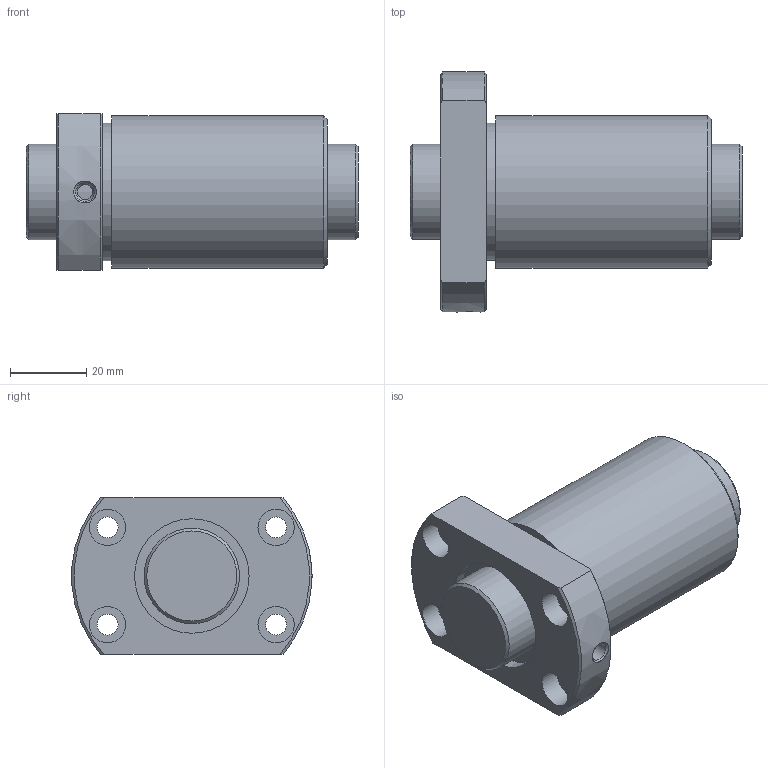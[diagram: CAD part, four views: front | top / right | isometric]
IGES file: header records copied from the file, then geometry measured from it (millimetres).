
Start section: Data from Parasolid IGES Translator 26.0.171, Copyright(c) 2006 Siemens PLM Software. All Rights Reserved.
Global section: file name: DIK2508-4RRG0+87LC0_000.igs; native system: By Siemens PLM Incorporated; preprocessor: XPlus GENERIC/IGES 26.0.171; author: Noname; organization: Noname; date: 20250113.095337; units: millimetre
Bounding box: 87 x 62.9 x 41 mm (x, y, z)
Surface area: 28297.4 mm2 (no closed solid volume)
Topology: 0 solids, 0 shells, 41 faces, 166 edges, 132 vertices
Faces by surface type: revolution 27, extrusion 14
